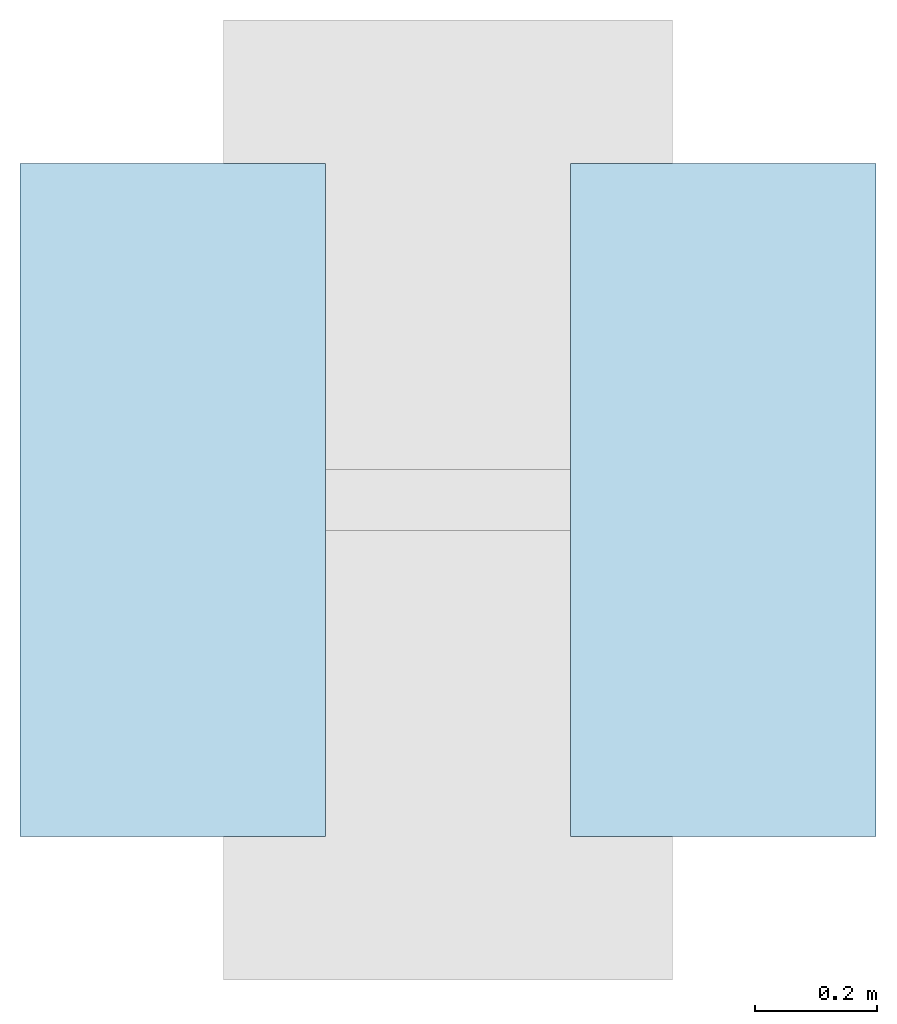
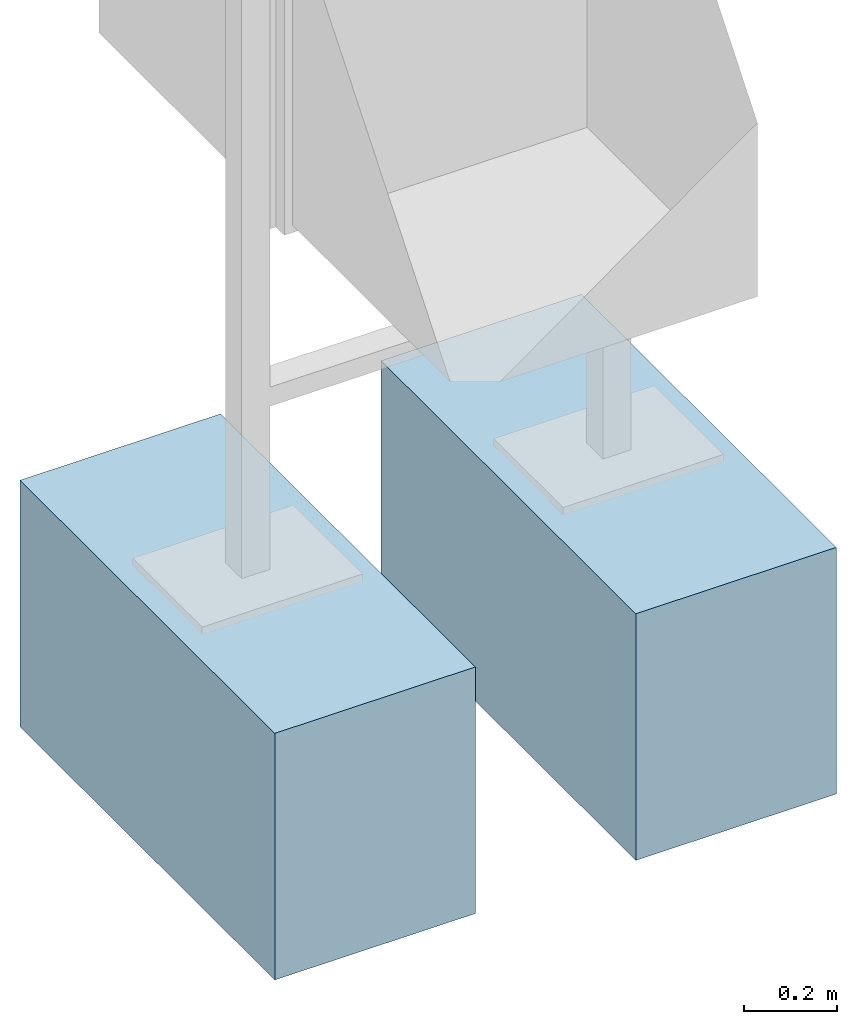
# One storey, incomplete: 2 slabs.
"""IFC4 building model written with IfcOpenShell, lengths in metres."""

from ifc_helpers import new_model, entity, si_unit, converted_unit, direction, frame, frame_2d, origin, origin_2d_with_axis, place, context, subcontext, project, spatial, rectangle, extrude, material, type_object, element, save


model = new_model("IFC4")

# Units and contexts
model_context = context("Model", 3, precision=1e-05, world=origin(), true_north=direction((6.123031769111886e-17, 1.0)))
body_context = subcontext(model_context, "Body", "Model", "MODEL_VIEW")
ifc_project = project(units=[si_unit("LENGTHUNIT", "METRE"), converted_unit("PLANEANGLEUNIT", "DEGREE", entity("IfcPlaneAngleMeasure", 0.017453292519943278), si_unit("PLANEANGLEUNIT", "RADIAN"), dimensions=[0, 0, 0, 0, 0, 0, 0]), si_unit("AREAUNIT", "SQUARE_METRE")], contexts=[model_context])

# Site, building, storey
site_placement = place(None, origin())
site = spatial("IfcSite", under=ifc_project, at=site_placement, Name="Default", CompositionType="ELEMENT")
building_placement = place(site_placement, origin())
building = spatial("IfcBuilding", under=site, at=building_placement, CompositionType="ELEMENT")
storey_placement = place(building_placement, origin())
storey = spatial("IfcBuildingStorey", under=building, at=storey_placement, Name="DB_Bezugshoehe_max_Bahnsteigkante", CompositionType="ELEMENT", Elevation=0.0)

# Slabs
ifc_material = material(Name="DB_Ortbeton", Category="DB_Beton")
slab_type = type_object("IfcSlabType", Name="DB_Vitrine_Fundament_kurz:DB_Vitrine_Fundament_kurz", PredefinedType="BASESLAB", material=ifc_material)
slab_1_placement = place(storey_placement, origin())
element("IfcSlab", 1, at=slab_1_placement, inside=storey, type_object=slab_type, Name="DB_Vitrine_Fundament_kurz:DB_Vitrine_Fundament_kurz", ObjectType="DB_Vitrine_Fundament_kurz:DB_Vitrine_Fundament_kurz", PredefinedType="BASESLAB", context=body_context, shape_type="SweptSolid", body=[
    extrude(rectangle(XDim=1.1, YDim=0.5, at=origin_2d_with_axis()), frame((0.0, 0.0, 0.04999999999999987), z_axis=(0.0, 0.0, 1.0), x_axis=(0.0, 1.0, 0.0)), (0.0, 0.0, 1.0), 0.5999999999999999),
    extrude(rectangle(XDim=0.5, YDim=1.1, at=frame_2d((2.7755575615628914e-17, 0.0), x_axis=(1.0, 0.0))), frame((0.0, 0.0, 0.0), z_axis=(0.0, 0.0, 1.0), x_axis=(-1.0, 0.0, 0.0)), (0.0, 0.0, 1.0), 0.04999999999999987),
])
slab_2_placement = place(storey_placement, origin())
element("IfcSlab", 2, at=slab_2_placement, inside=storey, type_object=slab_type, Name="DB_Vitrine_Fundament_kurz:DB_Vitrine_Fundament_kurz", ObjectType="DB_Vitrine_Fundament_kurz:DB_Vitrine_Fundament_kurz", PredefinedType="BASESLAB", context=body_context, shape_type="SweptSolid", body=[
    extrude(rectangle(XDim=1.1, YDim=0.5, at=origin_2d_with_axis()), frame((0.9000000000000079, 0.0, 0.04999999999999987), z_axis=(0.0, 0.0, 1.0), x_axis=(0.0, 1.0, 0.0)), (0.0, 0.0, 1.0), 0.5999999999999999),
    extrude(rectangle(XDim=0.5, YDim=1.1, at=origin_2d_with_axis()), frame((0.9000000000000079, 0.0, 0.0), z_axis=(0.0, 0.0, 1.0), x_axis=(-1.0, 0.0, 0.0)), (0.0, 0.0, 1.0), 0.04999999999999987),
])

save(model, "model.ifc")
